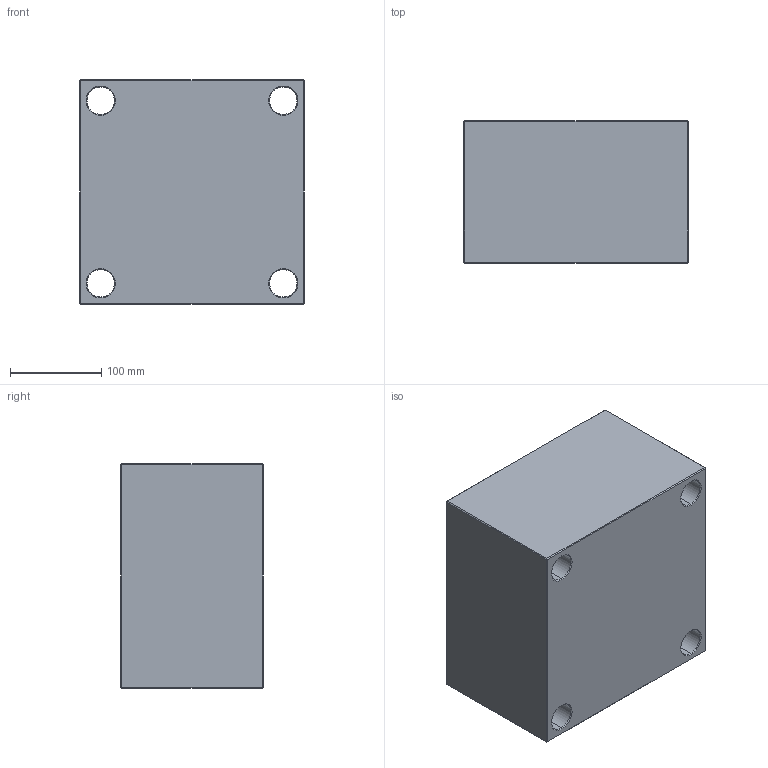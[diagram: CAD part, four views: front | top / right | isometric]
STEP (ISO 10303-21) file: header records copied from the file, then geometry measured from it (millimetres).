
FILE_DESCRIPTION (( 'STEP AP214' ), '1' );
FILE_NAME ('PC-246x246x156.STEP', '2020-04-21T16:11:29', ( 'August' ), ( '' ), 'SwSTEP 2.0', 'SolidWorks 2018', '' );
FILE_SCHEMA (( 'AUTOMOTIVE_DESIGN' ));
Length unit declared in the file: millimetre
Products named in the file (1): PC-246x246x156
Bounding box: 246 x 156 x 246 mm (x, y, z)
Volume: 8978928.1 mm3; surface area: 329705.9 mm2
Topology: 1 solids, 1 shells, 82 faces, 168 edges, 96 vertices
Faces by surface type: plane 34, cone 24, cylinder 24
Entity records: 2170 total; most frequent: DIRECTION 406, CARTESIAN_POINT 347, ORIENTED_EDGE 336, EDGE_CURVE 168, AXIS2_PLACEMENT_3D 155, EDGE_LOOP 98, VERTEX_POINT 96, LINE 96
